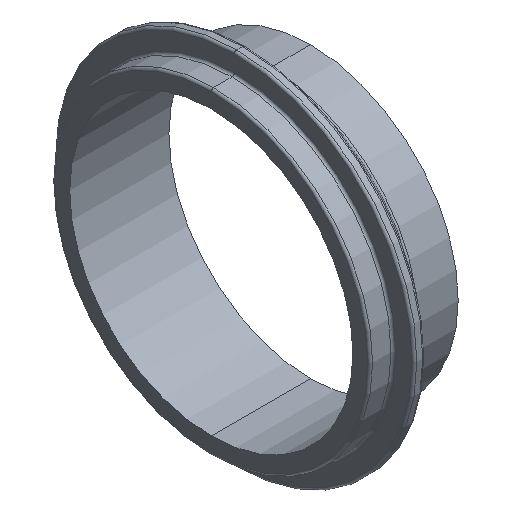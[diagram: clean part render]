
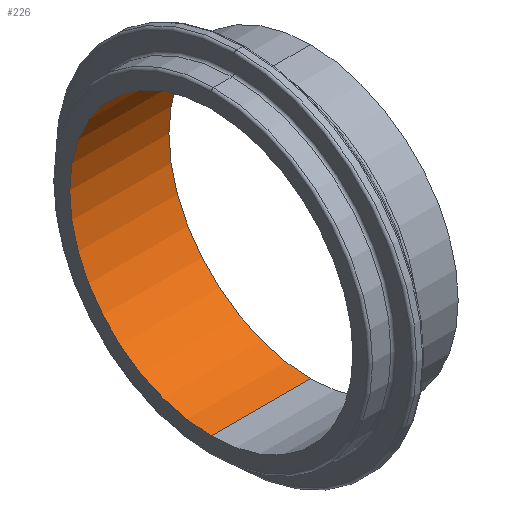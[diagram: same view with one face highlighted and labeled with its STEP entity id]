
A CAD part, isometric view. The second image highlights one B-rep face of the part: STEP entity #226.
In plain terms, the highlighted cylindrical face has radius 48.692 mm (diameter 97.384 mm), a partial arc.
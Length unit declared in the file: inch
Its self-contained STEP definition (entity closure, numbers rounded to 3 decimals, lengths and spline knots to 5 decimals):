
#8 = VECTOR ( 'NONE', #420, 39.37008 ) ;
#74 = CARTESIAN_POINT ( 'NONE',  ( 0., 0., -1.917 ) ) ;
#101 = DIRECTION ( 'NONE',  ( 1., 0., 0. ) ) ;
#118 = CARTESIAN_POINT ( 'NONE',  ( -1.343, 0., 1.917 ) ) ;
#138 = EDGE_CURVE ( 'NONE', #394, #435, #327, .T. ) ;
#141 = DIRECTION ( 'NONE',  ( 0., 0., -1. ) ) ;
#146 = DIRECTION ( 'NONE',  ( 0., 0., -1. ) ) ;
#149 = DIRECTION ( 'NONE',  ( 0., 0., -1. ) ) ;
#153 = CARTESIAN_POINT ( 'NONE',  ( 0., 0., -1.917 ) ) ;
#193 = ORIENTED_EDGE ( 'NONE', *, *, #258, .F. ) ;
#195 = CARTESIAN_POINT ( 'NONE',  ( 0., 0., 0. ) ) ;
#206 = LINE ( 'NONE', #153, #436 ) ;
#226 = ADVANCED_FACE ( 'NONE', ( #369 ), #508, .F. ) ;
#236 = CARTESIAN_POINT ( 'NONE',  ( 0., 0., 1.917 ) ) ;
#258 = EDGE_CURVE ( 'NONE', #380, #435, #455, .T. ) ;
#264 = CARTESIAN_POINT ( 'NONE',  ( 0., 0., 1.917 ) ) ;
#283 = AXIS2_PLACEMENT_3D ( 'NONE', #195, #562, #141 ) ;
#286 = CIRCLE ( 'NONE', #599, 1.917 ) ;
#304 = AXIS2_PLACEMENT_3D ( 'NONE', #358, #517, #149 ) ;
#327 = CIRCLE ( 'NONE', #283, 1.917 ) ;
#349 = CARTESIAN_POINT ( 'NONE',  ( -1.343, 0., -1.917 ) ) ;
#358 = CARTESIAN_POINT ( 'NONE',  ( 0., 0., 0. ) ) ;
#369 = FACE_OUTER_BOUND ( 'NONE', #439, .T. ) ;
#380 = VERTEX_POINT ( 'NONE', #118 ) ;
#394 = VERTEX_POINT ( 'NONE', #74 ) ;
#418 = DIRECTION ( 'NONE',  ( 1., 0., 0. ) ) ;
#420 = DIRECTION ( 'NONE',  ( 1., 0., 0. ) ) ;
#435 = VERTEX_POINT ( 'NONE', #236 ) ;
#436 = VECTOR ( 'NONE', #418, 39.37008 ) ;
#439 = EDGE_LOOP ( 'NONE', ( #193, #563, #445, #557 ) ) ;
#445 = ORIENTED_EDGE ( 'NONE', *, *, #637, .T. ) ;
#455 = LINE ( 'NONE', #264, #8 ) ;
#508 = CYLINDRICAL_SURFACE ( 'NONE', #304, 1.917 ) ;
#517 = DIRECTION ( 'NONE',  ( 1., 0., 0. ) ) ;
#557 = ORIENTED_EDGE ( 'NONE', *, *, #138, .T. ) ;
#562 = DIRECTION ( 'NONE',  ( 1., 0., 0. ) ) ;
#563 = ORIENTED_EDGE ( 'NONE', *, *, #654, .F. ) ;
#567 = CARTESIAN_POINT ( 'NONE',  ( -1.343, 0., 0. ) ) ;
#570 = VERTEX_POINT ( 'NONE', #349 ) ;
#599 = AXIS2_PLACEMENT_3D ( 'NONE', #567, #101, #146 ) ;
#637 = EDGE_CURVE ( 'NONE', #570, #394, #206, .T. ) ;
#654 = EDGE_CURVE ( 'NONE', #570, #380, #286, .T. ) ;
